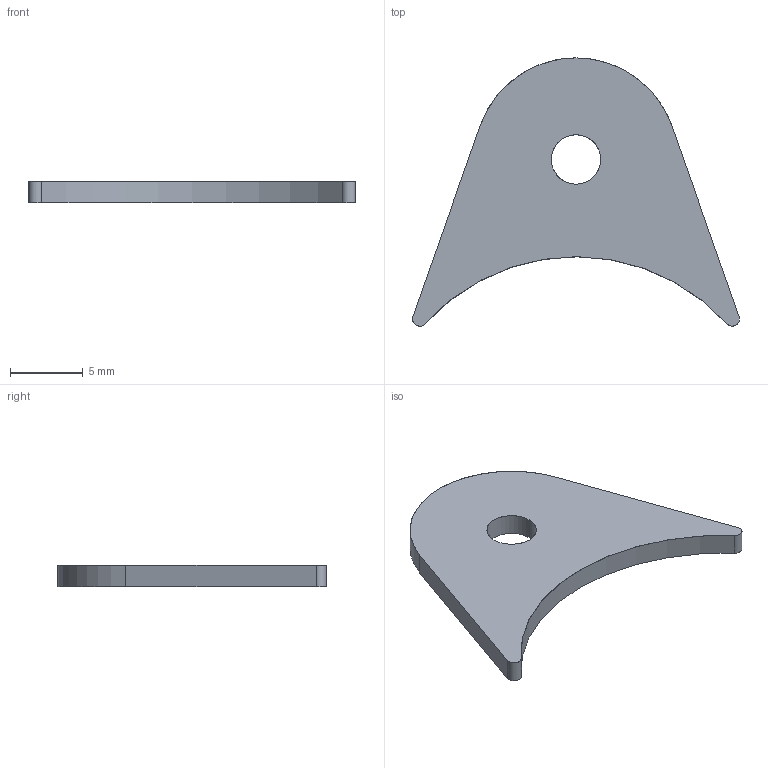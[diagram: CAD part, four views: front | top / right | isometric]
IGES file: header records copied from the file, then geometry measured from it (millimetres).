
Start section: START RECORD GO HERE.
Global section: file name: 20M_FR_04005 (chape parefeu bis).igs; native system: IBM CATIA IGES - CATIA Version 5 Release 19 ; preprocessor: CATIA Version 5 Release 19 ; author: Martin Kawczynski; organization: DESKTOP-UDLM1FC; date: 20200124.000204; units: millimetre
Bounding box: 22.52 x 18.48 x 1.5 mm (x, y, z)
Surface area: 553.5 mm2 (no closed solid volume)
Topology: 0 solids, 0 shells, 11 faces, 54 edges, 54 vertices
Faces by surface type: revolution 7, plane 4
